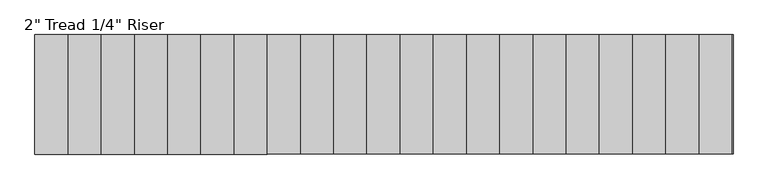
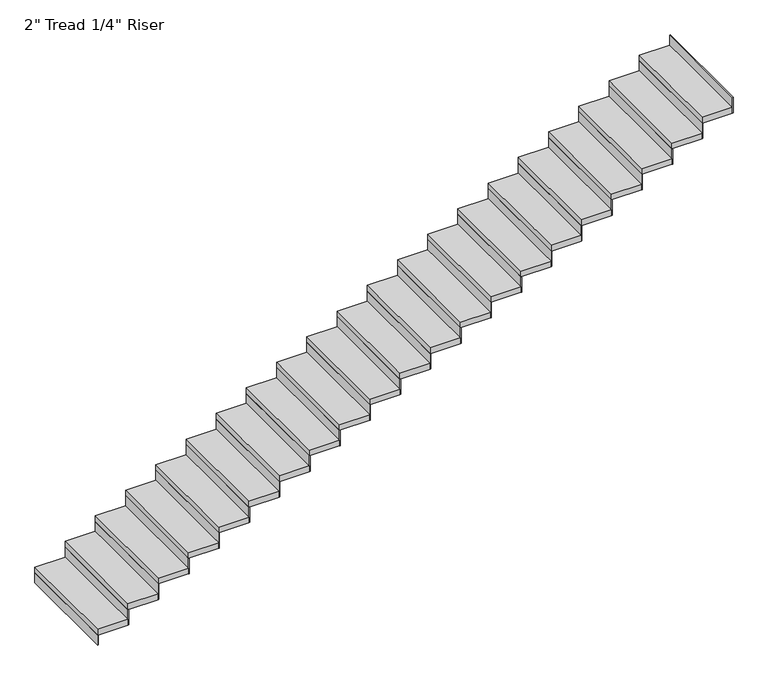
"""IFC4 building model written with IfcOpenShell, lengths in millimetres: stair flight geometry."""

import ifcopenshell
import ifcopenshell.guid

model = None  # the IFC model being written
_history = None  # IfcOwnerHistory: only IFC2X3 demands one
_inside = {}  # id of a spatial element -> (the spatial element, [elements in it])
_under = {}  # id of a project, library or spatial element -> (it, [spatial elements below it])
_declared = {}  # id of a project -> (the project, [libraries it declares])
_typed = {}  # id of a type object -> (the type object, [elements of that type])
_made_of = {}  # id of a material, layer set ... -> (it, [elements and type objects made of it])


def new_model(schema):
    """Start an empty IFC model of exactly this schema.

    Asked for "IFC4X3", IfcOpenShell would pick the latest addendum, in which some entities
    have other attributes; the version numbers below select the first issue.
    IFC2X3 requires an IfcOwnerHistory on every rooted entity: one is made here for all.
    """
    global model, _history
    if schema == "IFC4X3":
        model = ifcopenshell.file(schema_version=(4, 3, 0, 0))
    else:
        model = ifcopenshell.file(schema=schema)
    _inside.clear()
    _under.clear()
    _declared.clear()
    _typed.clear()
    _made_of.clear()
    _history = None
    if model.schema == "IFC2X3":
        org = make("IfcOrganization", Name="unknown")
        user = make(
            "IfcPersonAndOrganization",
            ThePerson=make("IfcPerson", FamilyName="unknown"),
            TheOrganization=org,
        )
        app = make(
            "IfcApplication",
            ApplicationDeveloper=org,
            Version="unknown",
            ApplicationFullName="unknown",
            ApplicationIdentifier="unknown",
        )
        _history = make(
            "IfcOwnerHistory",
            OwningUser=user,
            OwningApplication=app,
            ChangeAction="ADDED",
            CreationDate=0,
        )
    return model


def make(cls, **values):
    """One entity of the class cls with the attributes given. An attribute that is None is left unset."""
    return model.create_entity(
        cls, **{name: value for name, value in values.items() if value is not None}
    )


def rooted(cls, **values):
    """An entity with a GlobalId (a new one), such as an element, a storey or a relation."""
    return make(cls, GlobalId=ifcopenshell.guid.new(), OwnerHistory=_history, **values)


def si_unit(unit_type, name, prefix=None):
    """IfcSIUnit, for example si_unit("LENGTHUNIT", "METRE", prefix="MILLI")."""
    return make("IfcSIUnit", UnitType=unit_type, Prefix=prefix, Name=name)


def assignment(units):
    """IfcUnitAssignment: the units of a project."""
    return None if units is None else make("IfcUnitAssignment", Units=units)


def point(xyz):
    """IfcCartesianPoint."""
    return None if xyz is None else make("IfcCartesianPoint", Coordinates=xyz)


def direction(xyz):
    """IfcDirection."""
    return None if xyz is None else make("IfcDirection", DirectionRatios=xyz)


def frame(location, z_axis=None, x_axis=None):
    """IfcAxis2Placement3D, a coordinate frame: its origin and axes. An axis left out is left unset."""
    return make(
        "IfcAxis2Placement3D",
        Location=point(location),
        Axis=direction(z_axis),
        RefDirection=direction(x_axis),
    )


def origin():
    """The frame at (0, 0, 0) with its axes left unset."""
    return frame((0.0, 0.0, 0.0))


def origin_with_axes():
    """The frame at (0, 0, 0) with the z axis (0, 0, 1) and the x axis (1, 0, 0) written out."""
    return frame((0.0, 0.0, 0.0), z_axis=(0.0, 0.0, 1.0), x_axis=(1.0, 0.0, 0.0))


def place(relative_to, where):
    """IfcLocalPlacement: puts the frame where relative to a parent placement (None: the world)."""
    return make(
        "IfcLocalPlacement", PlacementRelTo=relative_to, RelativePlacement=where
    )


def context(
    kind, dimensions, precision=None, world=None, true_north=None, identifier=None
):
    """IfcGeometricRepresentationContext, for example the 3D "Model" context."""
    return make(
        "IfcGeometricRepresentationContext",
        ContextIdentifier=identifier,
        ContextType=kind,
        CoordinateSpaceDimension=dimensions,
        Precision=precision,
        WorldCoordinateSystem=world,
        TrueNorth=true_north,
    )


def project(units=None, contexts=None):
    """IfcProject with its units and contexts."""
    return rooted(
        "IfcProject",
        Name="project",
        RepresentationContexts=contexts,
        UnitsInContext=assignment(units),
    )


def spatial(cls, under=None, at=None, **own):
    """A site, building, storey or space (cls), placed at a placement, below another one or the project."""
    s = rooted(cls, ObjectPlacement=at, **own)
    if under is not None:
        _under.setdefault(under.id(), (under, []))[1].append(s)
    return s


def polyline(points):
    """IfcPolyline through the points."""
    return make("IfcPolyline", Points=[point(p) for p in points])


def outline(outer, holes=None, kind="AREA"):
    """IfcArbitraryClosedProfileDef: a profile drawn as a closed curve; with holes, ...WithVoids."""
    if holes is None:
        return make("IfcArbitraryClosedProfileDef", ProfileType=kind, OuterCurve=outer)
    return make(
        "IfcArbitraryProfileDefWithVoids",
        ProfileType=kind,
        OuterCurve=outer,
        InnerCurves=holes,
    )


def extrude(swept, where, along, depth):
    """IfcExtrudedAreaSolid: the profile swept, set in the frame where, extruded along a direction by depth."""
    return make(
        "IfcExtrudedAreaSolid",
        SweptArea=swept,
        Position=where,
        ExtrudedDirection=direction(along),
        Depth=depth,
    )


def shape(context_of_items, identifier, shape_type, items):
    """IfcShapeRepresentation: the items that make up one representation, for example the "Body"."""
    return make(
        "IfcShapeRepresentation",
        ContextOfItems=context_of_items,
        RepresentationIdentifier=identifier,
        RepresentationType=shape_type,
        Items=items,
    )


def source(mapping_origin, context_of_items, identifier, shape_type, items):
    """IfcRepresentationMap: a shape defined once, which mapped items show again and again."""
    return make(
        "IfcRepresentationMap",
        MappingOrigin=mapping_origin,
        MappedRepresentation=shape(context_of_items, identifier, shape_type, items),
    )


def transform(
    local_origin,
    x_axis=None,
    y_axis=None,
    z_axis=None,
    scale=None,
    scale2=None,
    scale3=None,
    uniform=True,
):
    """IfcCartesianTransformationOperator3D, or its non-uniform kind. x_axis, y_axis, z_axis: its Axis1, 2, 3."""
    if uniform:
        return make(
            "IfcCartesianTransformationOperator3D",
            Axis1=direction(x_axis),
            Axis2=direction(y_axis),
            LocalOrigin=point(local_origin),
            Scale=scale,
            Axis3=direction(z_axis),
        )
    return make(
        "IfcCartesianTransformationOperator3DnonUniform",
        Axis1=direction(x_axis),
        Axis2=direction(y_axis),
        LocalOrigin=point(local_origin),
        Scale=scale,
        Axis3=direction(z_axis),
        Scale2=scale2,
        Scale3=scale3,
    )


def mapped(mapping_source, mapping_target):
    """IfcMappedItem: shows the shape of a source again, moved by a transform."""
    return make(
        "IfcMappedItem", MappingSource=mapping_source, MappingTarget=mapping_target
    )


def made_of(thing, what):
    """Note that an element or type object is made of a material, layer set ...; save() writes the relation."""
    if what is not None:
        _made_of.setdefault(what.id(), (what, []))[1].append(thing)
    return thing


def element(
    cls,
    number,
    at=None,
    inside=None,
    cuts=None,
    type_object=None,
    material=None,
    context=None,
    identifier="Body",
    shape_type=None,
    held_by="IfcProductDefinitionShape",
    body=None,
    shapes=None,
    **own,
):
    """One element of the class cls, such as IfcWall. Its Tag is "e" and its number.

    at: its placement. inside: the storey or other place that contains it. cuts: it is an
    opening in that element (IfcRelVoidsElement). A single representation is given by context,
    identifier, shape_type and body (its items); several are given by shapes. held_by: the class
    of the entity that holds the representations. save() writes the other relations.
    """
    e = rooted(cls, Tag="e%d" % number, ObjectPlacement=at, **own)
    if body is not None:
        shapes = [shape(context, identifier, shape_type, body)]
    if shapes is not None:
        e.Representation = make(held_by, Representations=shapes)
    if inside is not None:
        _inside.setdefault(inside.id(), (inside, []))[1].append(e)
    if cuts is not None:
        rooted(
            "IfcRelVoidsElement", RelatingBuildingElement=cuts, RelatedOpeningElement=e
        )
    if type_object is not None:
        _typed.setdefault(type_object.id(), (type_object, []))[1].append(e)
    return made_of(e, material)


def aggregate(whole, parts):
    """IfcRelAggregates: a whole, such as a stair, and the parts it consists of."""
    return rooted("IfcRelAggregates", RelatingObject=whole, RelatedObjects=parts)


def save(model, path):
    """Write the relations noted so far, then the file.

    IfcRelAggregates (storeys below a building ...), IfcRelContainedInSpatialStructure (elements
    in a storey), IfcRelDefinesByType, IfcRelAssociatesMaterial and IfcRelDeclares: one each for
    every whole, place, type object, material and project.
    """
    for whole, parts in _under.values():
        aggregate(whole, parts)
    for where, things in _inside.values():
        rooted(
            "IfcRelContainedInSpatialStructure",
            RelatedElements=things,
            RelatingStructure=where,
        )
    for kind, things in _typed.values():
        rooted("IfcRelDefinesByType", RelatedObjects=things, RelatingType=kind)
    for what, things in _made_of.values():
        rooted("IfcRelAssociatesMaterial", RelatedObjects=things, RelatingMaterial=what)
    for by, libraries in _declared.values():
        rooted("IfcRelDeclares", RelatingContext=by, RelatedDefinitions=libraries)
    model.write(path)


def stair_flight_5f5a8382(model_context):
    return source(origin(), model_context, "Body", "SweptSolid", [
        extrude(outline(polyline([(60465.2405484, -68793.8034511), (60458.8905484, -68793.8034511), (60458.8905484, -67879.4034511), (60465.2405484, -67879.4034511), (60465.2405484, -68793.8034511)])), origin_with_axes(), (0.0, 0.0, 1.0), 87.7454545),
        extrude(outline(polyline([(60712.8905484, -67879.4034511), (60712.8905484, -68793.8034511), (60458.8905484, -68793.8034511), (60458.8905484, -67879.4034511), (60712.8905484, -67879.4034511)])), frame((0.0, 0.0, 87.7454545), z_axis=(0.0, 0.0, 1.0), x_axis=(1.0, 0.0, 0.0)), (0.0, 0.0, 1.0), 50.8),
        extrude(outline(polyline([(60719.2405484, -68793.8034511), (60712.8905484, -68793.8034511), (60712.8905484, -67879.4034511), (60719.2405484, -67879.4034511), (60719.2405484, -68793.8034511)])), frame((0.0, 0.0, 87.7454545), z_axis=(0.0, 0.0, 1.0), x_axis=(1.0, 0.0, 0.0)), (0.0, 0.0, 1.0), 138.5454545),
        extrude(outline(polyline([(60966.8905484, -67879.4034511), (60966.8905484, -68793.8034511), (60712.8905484, -68793.8034511), (60712.8905484, -67879.4034511), (60966.8905484, -67879.4034511)])), frame((0.0, 0.0, 226.2909091), z_axis=(0.0, 0.0, 1.0), x_axis=(1.0, 0.0, 0.0)), (0.0, 0.0, 1.0), 50.8),
        extrude(outline(polyline([(60973.2405484, -68793.8034511), (60966.8905484, -68793.8034511), (60966.8905484, -67879.4034511), (60973.2405484, -67879.4034511), (60973.2405484, -68793.8034511)])), frame((0.0, 0.0, 226.2909091), z_axis=(0.0, 0.0, 1.0), x_axis=(1.0, 0.0, 0.0)), (0.0, 0.0, 1.0), 138.5454545),
        extrude(outline(polyline([(61220.8905484, -67879.4034511), (61220.8905484, -68793.8034511), (60966.8905484, -68793.8034511), (60966.8905484, -67879.4034511), (61220.8905484, -67879.4034511)])), frame((0.0, 0.0, 364.8363636), z_axis=(0.0, 0.0, 1.0), x_axis=(1.0, 0.0, 0.0)), (0.0, 0.0, 1.0), 50.8),
        extrude(outline(polyline([(61227.2405484, -68793.8034511), (61220.8905484, -68793.8034511), (61220.8905484, -67879.4034511), (61227.2405484, -67879.4034511), (61227.2405484, -68793.8034511)])), frame((0.0, 0.0, 364.8363636), z_axis=(0.0, 0.0, 1.0), x_axis=(1.0, 0.0, 0.0)), (0.0, 0.0, 1.0), 138.5454545),
        extrude(outline(polyline([(61474.8905484, -67879.4034511), (61474.8905484, -68793.8034511), (61220.8905484, -68793.8034511), (61220.8905484, -67879.4034511), (61474.8905484, -67879.4034511)])), frame((0.0, 0.0, 503.3818182), z_axis=(0.0, 0.0, 1.0), x_axis=(1.0, 0.0, 0.0)), (0.0, 0.0, 1.0), 50.8),
        extrude(outline(polyline([(61481.2405484, -68793.8034511), (61474.8905484, -68793.8034511), (61474.8905484, -67879.4034511), (61481.2405484, -67879.4034511), (61481.2405484, -68793.8034511)])), frame((0.0, 0.0, 503.3818182), z_axis=(0.0, 0.0, 1.0), x_axis=(1.0, 0.0, 0.0)), (0.0, 0.0, 1.0), 138.5454545),
        extrude(outline(polyline([(61728.8905484, -67879.4034511), (61728.8905484, -68793.8034511), (61474.8905484, -68793.8034511), (61474.8905484, -67879.4034511), (61728.8905484, -67879.4034511)])), frame((0.0, 0.0, 641.9272727), z_axis=(0.0, 0.0, 1.0), x_axis=(1.0, 0.0, 0.0)), (0.0, 0.0, 1.0), 50.8),
        extrude(outline(polyline([(61735.2405484, -68793.8034511), (61728.8905484, -68793.8034511), (61728.8905484, -67879.4034511), (61735.2405484, -67879.4034511), (61735.2405484, -68793.8034511)])), frame((0.0, 0.0, 641.9272727), z_axis=(0.0, 0.0, 1.0), x_axis=(1.0, 0.0, 0.0)), (0.0, 0.0, 1.0), 138.5454545),
        extrude(outline(polyline([(61982.8905484, -67879.4034511), (61982.8905484, -68793.8034511), (61728.8905484, -68793.8034511), (61728.8905484, -67879.4034511), (61982.8905484, -67879.4034511)])), frame((0.0, 0.0, 780.4727273), z_axis=(0.0, 0.0, 1.0), x_axis=(1.0, 0.0, 0.0)), (0.0, 0.0, 1.0), 50.8),
        extrude(outline(polyline([(61989.2405484, -68793.8034511), (61982.8905484, -68793.8034511), (61982.8905484, -67879.4034511), (61989.2405484, -67879.4034511), (61989.2405484, -68793.8034511)])), frame((0.0, 0.0, 780.4727273), z_axis=(0.0, 0.0, 1.0), x_axis=(1.0, 0.0, 0.0)), (0.0, 0.0, 1.0), 138.5454545),
        extrude(outline(polyline([(62236.8905484, -67879.4034511), (62236.8905484, -68793.8034511), (61982.8905484, -68793.8034511), (61982.8905484, -67879.4034511), (62236.8905484, -67879.4034511)])), frame((0.0, 0.0, 919.0181818), z_axis=(0.0, 0.0, 1.0), x_axis=(1.0, 0.0, 0.0)), (0.0, 0.0, 1.0), 50.8),
        extrude(outline(polyline([(62243.2405484, -68793.8034511), (62236.8905484, -68793.8034511), (62236.8905484, -67879.4034511), (62243.2405484, -67879.4034511), (62243.2405484, -68793.8034511)])), frame((0.0, 0.0, 919.0181818), z_axis=(0.0, 0.0, 1.0), x_axis=(1.0, 0.0, 0.0)), (0.0, 0.0, 1.0), 138.5454545),
        extrude(outline(polyline([(62490.8905484, -67879.4034511), (62490.8905484, -68793.8034511), (62236.8905484, -68793.8034511), (62236.8905484, -67879.4034511), (62490.8905484, -67879.4034511)])), frame((0.0, 0.0, 1057.5636364), z_axis=(0.0, 0.0, 1.0), x_axis=(1.0, 0.0, 0.0)), (0.0, 0.0, 1.0), 50.8),
        extrude(outline(polyline([(62497.2405484, -68793.8034511), (62490.8905484, -68793.8034511), (62490.8905484, -67879.4034511), (62497.2405484, -67879.4034511), (62497.2405484, -68793.8034511)])), frame((0.0, 0.0, 1057.5636364), z_axis=(0.0, 0.0, 1.0), x_axis=(1.0, 0.0, 0.0)), (0.0, 0.0, 1.0), 138.5454545),
        extrude(outline(polyline([(62744.8905484, -67879.4034511), (62744.8905484, -68793.8034511), (62490.8905484, -68793.8034511), (62490.8905484, -67879.4034511), (62744.8905484, -67879.4034511)])), frame((0.0, 0.0, 1196.1090909), z_axis=(0.0, 0.0, 1.0), x_axis=(1.0, 0.0, 0.0)), (0.0, 0.0, 1.0), 50.8),
        extrude(outline(polyline([(62751.2405484, -68793.8034511), (62744.8905484, -68793.8034511), (62744.8905484, -67879.4034511), (62751.2405484, -67879.4034511), (62751.2405484, -68793.8034511)])), frame((0.0, 0.0, 1196.1090909), z_axis=(0.0, 0.0, 1.0), x_axis=(1.0, 0.0, 0.0)), (0.0, 0.0, 1.0), 138.5454545),
        extrude(outline(polyline([(62998.8905484, -67879.4034511), (62998.8905484, -68793.8034511), (62744.8905484, -68793.8034511), (62744.8905484, -67879.4034511), (62998.8905484, -67879.4034511)])), frame((0.0, 0.0, 1334.6545455), z_axis=(0.0, 0.0, 1.0), x_axis=(1.0, 0.0, 0.0)), (0.0, 0.0, 1.0), 50.8),
        extrude(outline(polyline([(63005.2405484, -68793.8034511), (62998.8905484, -68793.8034511), (62998.8905484, -67879.4034511), (63005.2405484, -67879.4034511), (63005.2405484, -68793.8034511)])), frame((0.0, 0.0, 1334.6545455), z_axis=(0.0, 0.0, 1.0), x_axis=(1.0, 0.0, 0.0)), (0.0, 0.0, 1.0), 138.5454545),
        extrude(outline(polyline([(63252.8905484, -67879.4034511), (63252.8905484, -68793.8034511), (62998.8905484, -68793.8034511), (62998.8905484, -67879.4034511), (63252.8905484, -67879.4034511)])), frame((0.0, 0.0, 1473.2), z_axis=(0.0, 0.0, 1.0), x_axis=(1.0, 0.0, 0.0)), (0.0, 0.0, 1.0), 50.8),
        extrude(outline(polyline([(63259.2405484, -68793.8034511), (63252.8905484, -68793.8034511), (63252.8905484, -67879.4034511), (63259.2405484, -67879.4034511), (63259.2405484, -68793.8034511)])), frame((0.0, 0.0, 1473.2), z_axis=(0.0, 0.0, 1.0), x_axis=(1.0, 0.0, 0.0)), (0.0, 0.0, 1.0), 138.5454545),
        extrude(outline(polyline([(63506.8905484, -67879.4034511), (63506.8905484, -68793.8034511), (63252.8905484, -68793.8034511), (63252.8905484, -67879.4034511), (63506.8905484, -67879.4034511)])), frame((0.0, 0.0, 1611.7454545), z_axis=(0.0, 0.0, 1.0), x_axis=(1.0, 0.0, 0.0)), (0.0, 0.0, 1.0), 50.8),
        extrude(outline(polyline([(63513.2405484, -68793.8034511), (63506.8905484, -68793.8034511), (63506.8905484, -67879.4034511), (63513.2405484, -67879.4034511), (63513.2405484, -68793.8034511)])), frame((0.0, 0.0, 1611.7454545), z_axis=(0.0, 0.0, 1.0), x_axis=(1.0, 0.0, 0.0)), (0.0, 0.0, 1.0), 138.5454545),
        extrude(outline(polyline([(63760.8905484, -67879.4034511), (63760.8905484, -68793.8034511), (63506.8905484, -68793.8034511), (63506.8905484, -67879.4034511), (63760.8905484, -67879.4034511)])), frame((0.0, 0.0, 1750.2909091), z_axis=(0.0, 0.0, 1.0), x_axis=(1.0, 0.0, 0.0)), (0.0, 0.0, 1.0), 50.8),
        extrude(outline(polyline([(63767.2405484, -68793.8034511), (63760.8905484, -68793.8034511), (63760.8905484, -67879.4034511), (63767.2405484, -67879.4034511), (63767.2405484, -68793.8034511)])), frame((0.0, 0.0, 1750.2909091), z_axis=(0.0, 0.0, 1.0), x_axis=(1.0, 0.0, 0.0)), (0.0, 0.0, 1.0), 138.5454545),
        extrude(outline(polyline([(64014.8905484, -67879.4034511), (64014.8905484, -68793.8034511), (63760.8905484, -68793.8034511), (63760.8905484, -67879.4034511), (64014.8905484, -67879.4034511)])), frame((0.0, 0.0, 1888.8363636), z_axis=(0.0, 0.0, 1.0), x_axis=(1.0, 0.0, 0.0)), (0.0, 0.0, 1.0), 50.8),
        extrude(outline(polyline([(64021.2405484, -68793.8034511), (64014.8905484, -68793.8034511), (64014.8905484, -67879.4034511), (64021.2405484, -67879.4034511), (64021.2405484, -68793.8034511)])), frame((0.0, 0.0, 1888.8363636), z_axis=(0.0, 0.0, 1.0), x_axis=(1.0, 0.0, 0.0)), (0.0, 0.0, 1.0), 138.5454545),
        extrude(outline(polyline([(64268.8905484, -67879.4034511), (64268.8905484, -68793.8034511), (64014.8905484, -68793.8034511), (64014.8905484, -67879.4034511), (64268.8905484, -67879.4034511)])), frame((0.0, 0.0, 2027.3818182), z_axis=(0.0, 0.0, 1.0), x_axis=(1.0, 0.0, 0.0)), (0.0, 0.0, 1.0), 50.8),
        extrude(outline(polyline([(64275.2405484, -68793.8034511), (64268.8905484, -68793.8034511), (64268.8905484, -67879.4034511), (64275.2405484, -67879.4034511), (64275.2405484, -68793.8034511)])), frame((0.0, 0.0, 2027.3818182), z_axis=(0.0, 0.0, 1.0), x_axis=(1.0, 0.0, 0.0)), (0.0, 0.0, 1.0), 138.5454545),
        extrude(outline(polyline([(64522.8905484, -67879.4034511), (64522.8905484, -68793.8034511), (64268.8905484, -68793.8034511), (64268.8905484, -67879.4034511), (64522.8905484, -67879.4034511)])), frame((0.0, 0.0, 2165.9272727), z_axis=(0.0, 0.0, 1.0), x_axis=(1.0, 0.0, 0.0)), (0.0, 0.0, 1.0), 50.8),
        extrude(outline(polyline([(64529.2405484, -68793.8034511), (64522.8905484, -68793.8034511), (64522.8905484, -67879.4034511), (64529.2405484, -67879.4034511), (64529.2405484, -68793.8034511)])), frame((0.0, 0.0, 2165.9272727), z_axis=(0.0, 0.0, 1.0), x_axis=(1.0, 0.0, 0.0)), (0.0, 0.0, 1.0), 138.5454545),
        extrude(outline(polyline([(64776.8905484, -67879.4034511), (64776.8905484, -68793.8034511), (64522.8905484, -68793.8034511), (64522.8905484, -67879.4034511), (64776.8905484, -67879.4034511)])), frame((0.0, 0.0, 2304.4727273), z_axis=(0.0, 0.0, 1.0), x_axis=(1.0, 0.0, 0.0)), (0.0, 0.0, 1.0), 50.8),
        extrude(outline(polyline([(64783.2405484, -68793.8034511), (64776.8905484, -68793.8034511), (64776.8905484, -67879.4034511), (64783.2405484, -67879.4034511), (64783.2405484, -68793.8034511)])), frame((0.0, 0.0, 2304.4727273), z_axis=(0.0, 0.0, 1.0), x_axis=(1.0, 0.0, 0.0)), (0.0, 0.0, 1.0), 138.5454545),
        extrude(outline(polyline([(65030.8905484, -67879.4034511), (65030.8905484, -68793.8034511), (64776.8905484, -68793.8034511), (64776.8905484, -67879.4034511), (65030.8905484, -67879.4034511)])), frame((0.0, 0.0, 2443.0181818), z_axis=(0.0, 0.0, 1.0), x_axis=(1.0, 0.0, 0.0)), (0.0, 0.0, 1.0), 50.8),
        extrude(outline(polyline([(65037.2405484, -68793.8034511), (65030.8905484, -68793.8034511), (65030.8905484, -67879.4034511), (65037.2405484, -67879.4034511), (65037.2405484, -68793.8034511)])), frame((0.0, 0.0, 2443.0181818), z_axis=(0.0, 0.0, 1.0), x_axis=(1.0, 0.0, 0.0)), (0.0, 0.0, 1.0), 138.5454545),
        extrude(outline(polyline([(65284.8905484, -67879.4034511), (65284.8905484, -68793.8034511), (65030.8905484, -68793.8034511), (65030.8905484, -67879.4034511), (65284.8905484, -67879.4034511)])), frame((0.0, 0.0, 2581.5636364), z_axis=(0.0, 0.0, 1.0), x_axis=(1.0, 0.0, 0.0)), (0.0, 0.0, 1.0), 50.8),
        extrude(outline(polyline([(65291.2405484, -68793.8034511), (65284.8905484, -68793.8034511), (65284.8905484, -67879.4034511), (65291.2405484, -67879.4034511), (65291.2405484, -68793.8034511)])), frame((0.0, 0.0, 2581.5636364), z_axis=(0.0, 0.0, 1.0), x_axis=(1.0, 0.0, 0.0)), (0.0, 0.0, 1.0), 138.5454545),
        extrude(outline(polyline([(65538.8905484, -67879.4034511), (65538.8905484, -68793.8034511), (65284.8905484, -68793.8034511), (65284.8905484, -67879.4034511), (65538.8905484, -67879.4034511)])), frame((0.0, 0.0, 2720.1090909), z_axis=(0.0, 0.0, 1.0), x_axis=(1.0, 0.0, 0.0)), (0.0, 0.0, 1.0), 50.8),
        extrude(outline(polyline([(65545.2405484, -68793.8034511), (65538.8905484, -68793.8034511), (65538.8905484, -67879.4034511), (65545.2405484, -67879.4034511), (65545.2405484, -68793.8034511)])), frame((0.0, 0.0, 2720.1090909), z_axis=(0.0, 0.0, 1.0), x_axis=(1.0, 0.0, 0.0)), (0.0, 0.0, 1.0), 138.5454545),
        extrude(outline(polyline([(65799.2405484, -68793.8034511), (65792.8905484, -68793.8034511), (65792.8905484, -67879.4034511), (65799.2405484, -67879.4034511), (65799.2405484, -68793.8034511)])), frame((0.0, 0.0, 2858.6545455), z_axis=(0.0, 0.0, 1.0), x_axis=(1.0, 0.0, 0.0)), (0.0, 0.0, 1.0), 138.5454545),
        extrude(outline(polyline([(65792.8905484, -67879.4034511), (65792.8905484, -68793.8034511), (65538.8905484, -68793.8034511), (65538.8905484, -67879.4034511), (65792.8905484, -67879.4034511)])), frame((0.0, 0.0, 2858.6545455), z_axis=(0.0, 0.0, 1.0), x_axis=(1.0, 0.0, 0.0)), (0.0, 0.0, 1.0), 50.8),
    ])


if __name__ == "__main__":
    model = new_model("IFC4")
    model_context = context("Model", 3, world=origin())
    ifc_project = project(units=[si_unit("LENGTHUNIT", "METRE", prefix="MILLI")], contexts=[model_context])
    site = spatial("IfcSite", under=ifc_project)
    building = spatial("IfcBuilding", under=site)
    placement = place(None, origin())
    stair_flight_shape = stair_flight_5f5a8382(model_context)
    element("IfcStairFlight", 1, ObjectType="2\" Tread 1/4\" Riser", at=placement, inside=building, context=model_context, shape_type="MappedRepresentation", body=[
        mapped(stair_flight_shape, transform((0.0, 0.0, 0.0), x_axis=(1.0, 0.0, 0.0), y_axis=(0.0, 1.0, 0.0), z_axis=(0.0, 0.0, 1.0))),
    ])
    save(model, "model.ifc")
